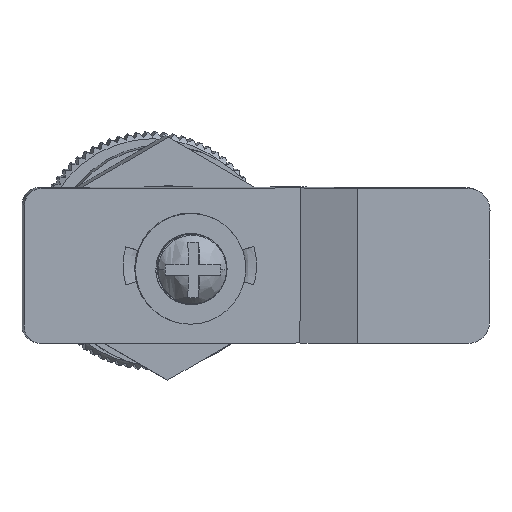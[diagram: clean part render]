
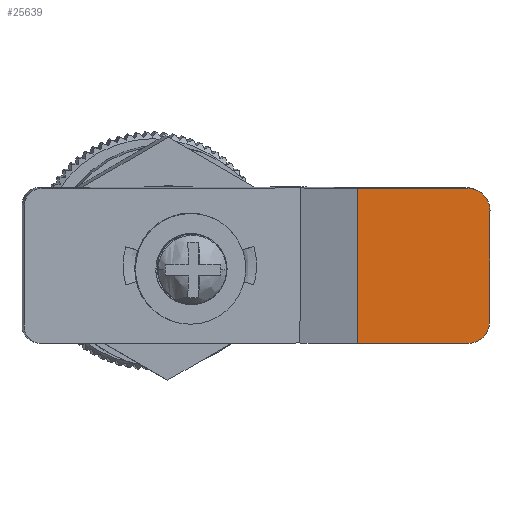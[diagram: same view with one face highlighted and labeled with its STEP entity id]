
A CAD part, front view. The second image highlights one B-rep face of the part: STEP entity #25639.
In plain terms, the highlighted planar face has unit normal (0, -1, 0) by its records, which use the part's own axes.
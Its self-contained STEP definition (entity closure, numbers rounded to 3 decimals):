
#3452 = CARTESIAN_POINT ( 'NONE',  ( 40., 2., 0. ) ) ;
#3485 = AXIS2_PLACEMENT_3D ( 'NONE', #31724, #15193, #6820 ) ;
#4280 = DIRECTION ( 'NONE',  ( 0., 0., -1. ) ) ;
#4468 = CARTESIAN_POINT ( 'NONE',  ( 42., 2., -12. ) ) ;
#5094 = FACE_OUTER_BOUND ( 'NONE', #25702, .T. ) ;
#5452 = VERTEX_POINT ( 'NONE', #20792 ) ;
#6338 = ORIENTED_EDGE ( 'NONE', *, *, #21712, .F. ) ;
#6556 = VECTOR ( 'NONE', #14873, 1000. ) ;
#6820 = DIRECTION ( 'NONE',  ( -1., 0., 0. ) ) ;
#7138 = VECTOR ( 'NONE', #24115, 1000. ) ;
#8033 = CIRCLE ( 'NONE', #12101, 2. ) ;
#8192 = CARTESIAN_POINT ( 'NONE',  ( 40., 2., 0. ) ) ;
#8375 = DIRECTION ( 'NONE',  ( 0., 1., 0. ) ) ;
#8401 = DIRECTION ( 'NONE',  ( 0., 1., 0. ) ) ;
#8457 = EDGE_CURVE ( 'NONE', #9793, #14997, #26495, .T. ) ;
#8486 = EDGE_CURVE ( 'NONE', #8742, #18588, #12682, .T. ) ;
#8742 = VERTEX_POINT ( 'NONE', #25547 ) ;
#9793 = VERTEX_POINT ( 'NONE', #31271 ) ;
#10828 = AXIS2_PLACEMENT_3D ( 'NONE', #8192, #8375, #27642 ) ;
#11783 = LINE ( 'NONE', #17415, #6556 ) ;
#12080 = ORIENTED_EDGE ( 'NONE', *, *, #8457, .F. ) ;
#12101 = AXIS2_PLACEMENT_3D ( 'NONE', #16224, #8401, #16765 ) ;
#12682 = LINE ( 'NONE', #29566, #34931 ) ;
#13040 = CARTESIAN_POINT ( 'NONE',  ( 12.5, 2., 0. ) ) ;
#13171 = EDGE_CURVE ( 'NONE', #18588, #24639, #19187, .T. ) ;
#14873 = DIRECTION ( 'NONE',  ( 0., 0., -1. ) ) ;
#14884 = EDGE_CURVE ( 'NONE', #14997, #5452, #8033, .T. ) ;
#14997 = VERTEX_POINT ( 'NONE', #3452 ) ;
#15193 = DIRECTION ( 'NONE',  ( 0., -1., 0. ) ) ;
#16224 = CARTESIAN_POINT ( 'NONE',  ( 40., 2., -2. ) ) ;
#16765 = DIRECTION ( 'NONE',  ( -1., 0., 0. ) ) ;
#17415 = CARTESIAN_POINT ( 'NONE',  ( 30., 2., 0. ) ) ;
#18077 = CARTESIAN_POINT ( 'NONE',  ( 40., 2., -14. ) ) ;
#18588 = VERTEX_POINT ( 'NONE', #18077 ) ;
#19187 = CIRCLE ( 'NONE', #3485, 2. ) ;
#19963 = ORIENTED_EDGE ( 'NONE', *, *, #8486, .T. ) ;
#20792 = CARTESIAN_POINT ( 'NONE',  ( 42., 2., -2. ) ) ;
#21712 = EDGE_CURVE ( 'NONE', #5452, #24639, #24099, .T. ) ;
#24099 = LINE ( 'NONE', #35000, #25353 ) ;
#24115 = DIRECTION ( 'NONE',  ( 1., 0., 0. ) ) ;
#24639 = VERTEX_POINT ( 'NONE', #4468 ) ;
#24913 = PLANE ( 'NONE',  #10828 ) ;
#25353 = VECTOR ( 'NONE', #4280, 1000. ) ;
#25547 = CARTESIAN_POINT ( 'NONE',  ( 30., 2., -14. ) ) ;
#25639 = ADVANCED_FACE ( 'NONE', ( #5094 ), #24913, .F. ) ;
#25702 = EDGE_LOOP ( 'NONE', ( #12080, #26590, #19963, #34796, #6338, #28406 ) ) ;
#26452 = EDGE_CURVE ( 'NONE', #9793, #8742, #11783, .T. ) ;
#26495 = LINE ( 'NONE', #13040, #7138 ) ;
#26590 = ORIENTED_EDGE ( 'NONE', *, *, #26452, .T. ) ;
#27017 = DIRECTION ( 'NONE',  ( 1., 0., 0. ) ) ;
#27642 = DIRECTION ( 'NONE',  ( -1., 0., 0. ) ) ;
#28406 = ORIENTED_EDGE ( 'NONE', *, *, #14884, .F. ) ;
#29566 = CARTESIAN_POINT ( 'NONE',  ( 12.5, 2., -14. ) ) ;
#31271 = CARTESIAN_POINT ( 'NONE',  ( 30., 2., 0. ) ) ;
#31724 = CARTESIAN_POINT ( 'NONE',  ( 40., 2., -12. ) ) ;
#34796 = ORIENTED_EDGE ( 'NONE', *, *, #13171, .T. ) ;
#34931 = VECTOR ( 'NONE', #27017, 1000. ) ;
#35000 = CARTESIAN_POINT ( 'NONE',  ( 42., 2., 0. ) ) ;
